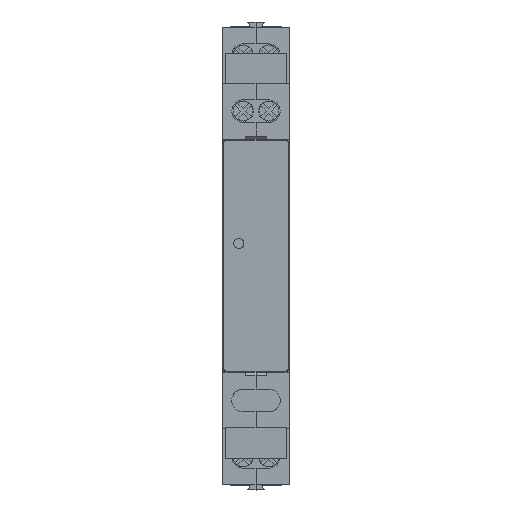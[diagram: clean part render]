
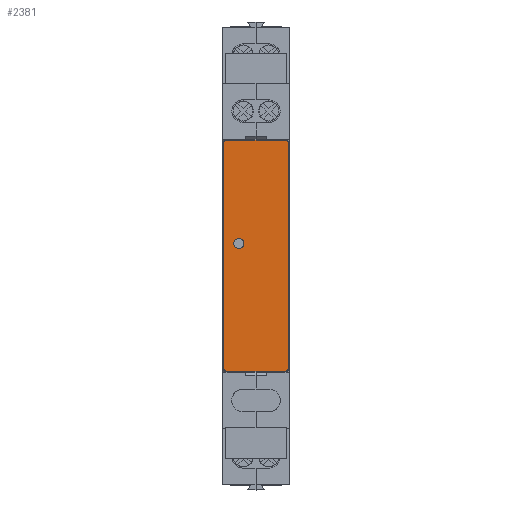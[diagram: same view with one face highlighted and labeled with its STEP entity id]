
A CAD part, top view. The second image highlights one B-rep face of the part: STEP entity #2381.
In plain terms, the highlighted planar face has unit normal (0, 0, 1).
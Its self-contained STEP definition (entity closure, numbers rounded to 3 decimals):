
#985 = ORIENTED_EDGE ( 'NONE', *, *, #12868, .T. ) ;
#1021 = DIRECTION ( 'NONE',  ( -1., 0., 0. ) ) ;
#1316 = CARTESIAN_POINT ( 'NONE',  ( 0.741, 68.45, 62.123 ) ) ;
#1345 = CARTESIAN_POINT ( 'NONE',  ( 12.259, 68.45, 62.123 ) ) ;
#1916 = DIRECTION ( 'NONE',  ( 0., 0., -1. ) ) ;
#2026 = CARTESIAN_POINT ( 'NONE',  ( 4.141, 48.25, 62.123 ) ) ;
#2315 = CARTESIAN_POINT ( 'NONE',  ( 3.141, 48.25, 62.123 ) ) ;
#2381 = ADVANCED_FACE ( 'NONE', ( #12098, #3140 ), #4285, .F. ) ;
#2435 = EDGE_CURVE ( 'NONE', #7237, #16361, #14801, .T. ) ;
#2685 = DIRECTION ( 'NONE',  ( -1., 0., 0. ) ) ;
#3011 = DIRECTION ( 'NONE',  ( 0., 0., 1. ) ) ;
#3140 = FACE_OUTER_BOUND ( 'NONE', #11070, .T. ) ;
#3540 = DIRECTION ( 'NONE',  ( 1., 0., 0. ) ) ;
#3548 =( BOUNDED_CURVE ( )  B_SPLINE_CURVE ( 3, ( #10117, #15086, #5141, #1345 ),
 .UNSPECIFIED., .F., .T. ) 
 B_SPLINE_CURVE_WITH_KNOTS ( ( 4, 4 ),
 ( 5.668, 7.238 ),
 .UNSPECIFIED. ) 
 CURVE ( )  GEOMETRIC_REPRESENTATION_ITEM ( )  RATIONAL_B_SPLINE_CURVE ( ( 1., 0.805, 0.805, 1. ) ) 
 REPRESENTATION_ITEM ( '' )  );
#3687 = AXIS2_PLACEMENT_3D ( 'NONE', #2315, #11173, #3540 ) ;
#3868 = VERTEX_POINT ( 'NONE', #4525 ) ;
#4285 = PLANE ( 'NONE',  #7929 ) ;
#4525 = CARTESIAN_POINT ( 'NONE',  ( 12.259, 23.25, 62.123 ) ) ;
#4537 = CARTESIAN_POINT ( 'NONE',  ( 13., 23.25, 62.123 ) ) ;
#4657 = CARTESIAN_POINT ( 'NONE',  ( 0.141, 68.201, 62.123 ) ) ;
#4881 = ORIENTED_EDGE ( 'NONE', *, *, #2435, .F. ) ;
#4887 = EDGE_CURVE ( 'NONE', #10098, #8598, #3548, .T. ) ;
#4918 = VECTOR ( 'NONE', #2685, 1000. ) ;
#4939 = CARTESIAN_POINT ( 'NONE',  ( 12.859, 23.85, 62.123 ) ) ;
#4991 = VERTEX_POINT ( 'NONE', #13011 ) ;
#5003 = CARTESIAN_POINT ( 'NONE',  ( 13., 68.45, 62.123 ) ) ;
#5032 = EDGE_LOOP ( 'NONE', ( #4881, #5838 ) ) ;
#5141 = CARTESIAN_POINT ( 'NONE',  ( 12.61, 68.45, 62.123 ) ) ;
#5664 = DIRECTION ( 'NONE',  ( 1., 0., 0. ) ) ;
#5798 = DIRECTION ( 'NONE',  ( -1., 0., 0. ) ) ;
#5838 = ORIENTED_EDGE ( 'NONE', *, *, #14340, .F. ) ;
#6521 = EDGE_CURVE ( 'NONE', #10098, #13680, #11113, .T. ) ;
#6973 = VERTEX_POINT ( 'NONE', #1316 ) ;
#7152 =( BOUNDED_CURVE ( )  B_SPLINE_CURVE ( 3, ( #9233, #15770, #15860, #9313 ),
 .UNSPECIFIED., .F., .T. ) 
 B_SPLINE_CURVE_WITH_KNOTS ( ( 4, 4 ),
 ( 2.526, 4.097 ),
 .UNSPECIFIED. ) 
 CURVE ( )  GEOMETRIC_REPRESENTATION_ITEM ( )  RATIONAL_B_SPLINE_CURVE ( ( 1., 0.805, 0.805, 1. ) ) 
 REPRESENTATION_ITEM ( '' )  );
#7226 = VECTOR ( 'NONE', #14953, 1000. ) ;
#7237 = VERTEX_POINT ( 'NONE', #2026 ) ;
#7255 = LINE ( 'NONE', #13380, #7226 ) ;
#7257 = CARTESIAN_POINT ( 'NONE',  ( 12.859, 23.499, 62.123 ) ) ;
#7890 = VERTEX_POINT ( 'NONE', #14316 ) ;
#7929 = AXIS2_PLACEMENT_3D ( 'NONE', #4537, #1916, #5798 ) ;
#8030 = ORIENTED_EDGE ( 'NONE', *, *, #10384, .T. ) ;
#8495 = ORIENTED_EDGE ( 'NONE', *, *, #12018, .F. ) ;
#8579 = CARTESIAN_POINT ( 'NONE',  ( 12.61, 23.25, 62.123 ) ) ;
#8598 = VERTEX_POINT ( 'NONE', #11312 ) ;
#9233 = CARTESIAN_POINT ( 'NONE',  ( 0.141, 23.85, 62.123 ) ) ;
#9313 = CARTESIAN_POINT ( 'NONE',  ( 0.741, 23.25, 62.123 ) ) ;
#9480 = ORIENTED_EDGE ( 'NONE', *, *, #6521, .F. ) ;
#9540 = CARTESIAN_POINT ( 'NONE',  ( 12.859, 23.15, 62.123 ) ) ;
#9754 = CARTESIAN_POINT ( 'NONE',  ( 12.259, 23.25, 62.123 ) ) ;
#9981 = CARTESIAN_POINT ( 'NONE',  ( 12.859, 67.85, 62.123 ) ) ;
#10098 = VERTEX_POINT ( 'NONE', #9981 ) ;
#10117 = CARTESIAN_POINT ( 'NONE',  ( 12.859, 67.85, 62.123 ) ) ;
#10343 = EDGE_CURVE ( 'NONE', #8598, #6973, #10391, .T. ) ;
#10384 = EDGE_CURVE ( 'NONE', #7890, #12025, #7152, .T. ) ;
#10391 = LINE ( 'NONE', #5003, #4918 ) ;
#10926 = AXIS2_PLACEMENT_3D ( 'NONE', #12966, #3011, #5664 ) ;
#11070 = EDGE_LOOP ( 'NONE', ( #8495, #16264, #9480, #11291, #14269, #985, #16147, #8030 ) ) ;
#11113 = LINE ( 'NONE', #9540, #12547 ) ;
#11173 = DIRECTION ( 'NONE',  ( 0., 0., 1. ) ) ;
#11272 = VECTOR ( 'NONE', #1021, 1000. ) ;
#11291 = ORIENTED_EDGE ( 'NONE', *, *, #4887, .T. ) ;
#11312 = CARTESIAN_POINT ( 'NONE',  ( 12.259, 68.45, 62.123 ) ) ;
#12018 = EDGE_CURVE ( 'NONE', #3868, #12025, #12118, .T. ) ;
#12025 = VERTEX_POINT ( 'NONE', #13430 ) ;
#12098 = FACE_BOUND ( 'NONE', #5032, .T. ) ;
#12118 = LINE ( 'NONE', #13585, #11272 ) ;
#12547 = VECTOR ( 'NONE', #14666, 1000. ) ;
#12868 = EDGE_CURVE ( 'NONE', #6973, #4991, #15615, .T. ) ;
#12966 = CARTESIAN_POINT ( 'NONE',  ( 3.141, 48.25, 62.123 ) ) ;
#13011 = CARTESIAN_POINT ( 'NONE',  ( 0.141, 67.85, 62.123 ) ) ;
#13204 = CARTESIAN_POINT ( 'NONE',  ( 0.39, 68.45, 62.123 ) ) ;
#13291 = CIRCLE ( 'NONE', #10926, 1. ) ;
#13360 = CARTESIAN_POINT ( 'NONE',  ( 0.741, 68.45, 62.123 ) ) ;
#13380 = CARTESIAN_POINT ( 'NONE',  ( 0.141, 23.15, 62.123 ) ) ;
#13430 = CARTESIAN_POINT ( 'NONE',  ( 0.741, 23.25, 62.123 ) ) ;
#13585 = CARTESIAN_POINT ( 'NONE',  ( 13., 23.25, 62.123 ) ) ;
#13680 = VERTEX_POINT ( 'NONE', #4939 ) ;
#13705 = CARTESIAN_POINT ( 'NONE',  ( 2.141, 48.25, 62.123 ) ) ;
#14088 = EDGE_CURVE ( 'NONE', #3868, #13680, #16152, .T. ) ;
#14269 = ORIENTED_EDGE ( 'NONE', *, *, #10343, .T. ) ;
#14316 = CARTESIAN_POINT ( 'NONE',  ( 0.141, 23.85, 62.123 ) ) ;
#14340 = EDGE_CURVE ( 'NONE', #16361, #7237, #13291, .T. ) ;
#14666 = DIRECTION ( 'NONE',  ( 0., -1., 0. ) ) ;
#14796 = CARTESIAN_POINT ( 'NONE',  ( 12.859, 23.85, 62.123 ) ) ;
#14801 = CIRCLE ( 'NONE', #3687, 1. ) ;
#14953 = DIRECTION ( 'NONE',  ( 0., -1., 0. ) ) ;
#15086 = CARTESIAN_POINT ( 'NONE',  ( 12.859, 68.201, 62.123 ) ) ;
#15615 =( BOUNDED_CURVE ( )  B_SPLINE_CURVE ( 3, ( #13360, #13204, #4657, #15772 ),
 .UNSPECIFIED., .F., .T. ) 
 B_SPLINE_CURVE_WITH_KNOTS ( ( 4, 4 ),
 ( 5.328, 6.899 ),
 .UNSPECIFIED. ) 
 CURVE ( )  GEOMETRIC_REPRESENTATION_ITEM ( )  RATIONAL_B_SPLINE_CURVE ( ( 1., 0.805, 0.805, 1. ) ) 
 REPRESENTATION_ITEM ( '' )  );
#15770 = CARTESIAN_POINT ( 'NONE',  ( 0.141, 23.499, 62.123 ) ) ;
#15772 = CARTESIAN_POINT ( 'NONE',  ( 0.141, 67.85, 62.123 ) ) ;
#15860 = CARTESIAN_POINT ( 'NONE',  ( 0.39, 23.25, 62.123 ) ) ;
#16147 = ORIENTED_EDGE ( 'NONE', *, *, #16250, .T. ) ;
#16152 =( BOUNDED_CURVE ( )  B_SPLINE_CURVE ( 3, ( #9754, #8579, #7257, #14796 ),
 .UNSPECIFIED., .F., .T. ) 
 B_SPLINE_CURVE_WITH_KNOTS ( ( 4, 4 ),
 ( 2.186, 3.757 ),
 .UNSPECIFIED. ) 
 CURVE ( )  GEOMETRIC_REPRESENTATION_ITEM ( )  RATIONAL_B_SPLINE_CURVE ( ( 1., 0.805, 0.805, 1. ) ) 
 REPRESENTATION_ITEM ( '' )  );
#16250 = EDGE_CURVE ( 'NONE', #4991, #7890, #7255, .T. ) ;
#16264 = ORIENTED_EDGE ( 'NONE', *, *, #14088, .T. ) ;
#16361 = VERTEX_POINT ( 'NONE', #13705 ) ;
